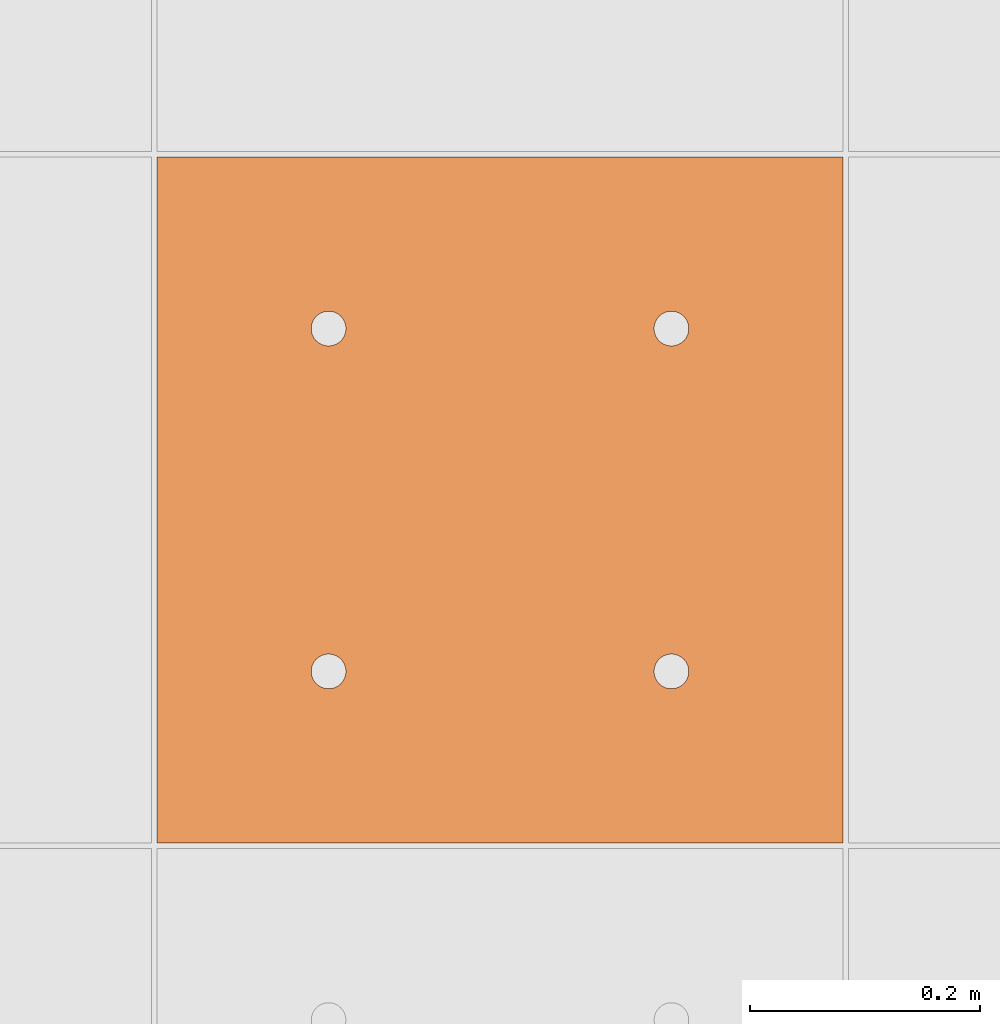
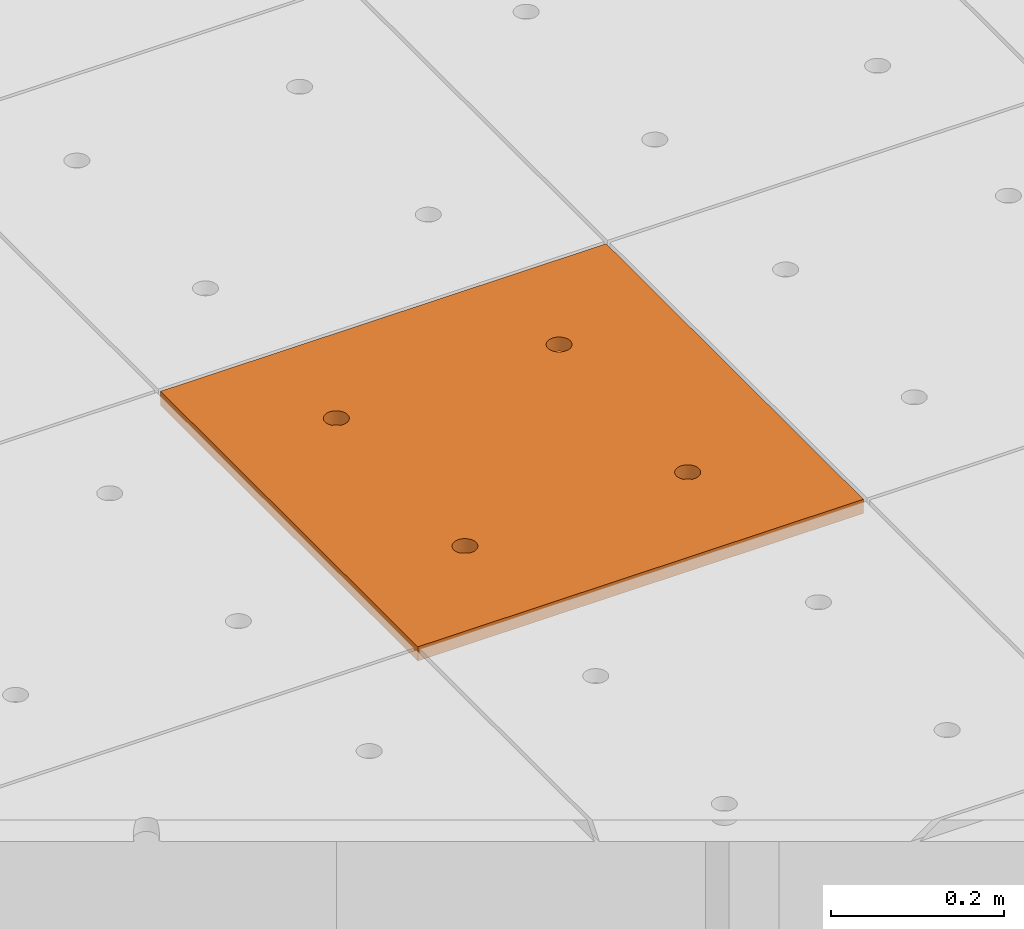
# One storey, part 265 of 338: 1 proxy, 1 element without a shape of its own.
"""IFC2X3 building model written with IfcOpenShell, lengths in millimetres."""

from ifc_helpers import new_model, entity, si_unit, converted_unit, derived_unit, money_unit, direction, frame, origin_with_axes, place, context, subcontext, project, spatial, faceted_brep, source, transform, mapped, material, type_object, type_shapes, element, aggregate, save


model = new_model("IFC2X3")

# Units and contexts
model_context = context("Model", 3, precision=0.01, world=origin_with_axes(), true_north=direction((0.0, 1.0)))
plan_context = context("Plan", 3, precision=0.01, world=origin_with_axes(), true_north=direction((0.0, 1.0)))
body_context = subcontext(model_context, "Body", "Model", "MODEL_VIEW")
ifc_project = project(units=[si_unit("LENGTHUNIT", "METRE", prefix="MILLI"), si_unit("AREAUNIT", "SQUARE_METRE"), si_unit("VOLUMEUNIT", "CUBIC_METRE"), converted_unit("PLANEANGLEUNIT", "DEGREE", entity("IfcPlaneAngleMeasure", 0.0174532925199), si_unit("PLANEANGLEUNIT", "RADIAN"), dimensions=[0, 0, 0, 0, 0, 0, 0]), money_unit("EUR"), converted_unit("TIMEUNIT", "Year", entity("IfcTimeMeasure", 31556926.0), si_unit("TIMEUNIT", "SECOND"), dimensions=[0, 0, 1, 0, 0, 0, 0]), si_unit("MASSUNIT", "GRAM", prefix="KILO"), si_unit("THERMODYNAMICTEMPERATUREUNIT", "DEGREE_CELSIUS"), si_unit("LUMINOUSINTENSITYUNIT", "LUMEN"), si_unit("ENERGYUNIT", "JOULE", prefix="MEGA"), derived_unit("THERMALCONDUCTANCEUNIT", [(si_unit("POWERUNIT", "WATT"), 1), (si_unit("LENGTHUNIT", "METRE"), -1), (si_unit("THERMODYNAMICTEMPERATUREUNIT", "KELVIN"), -1)]), derived_unit("SPECIFICHEATCAPACITYUNIT", [(si_unit("ENERGYUNIT", "JOULE"), 1), (si_unit("MASSUNIT", "GRAM", prefix="KILO"), -1), (si_unit("THERMODYNAMICTEMPERATUREUNIT", "KELVIN"), -1)]), derived_unit("MASSDENSITYUNIT", [(si_unit("MASSUNIT", "GRAM", prefix="KILO"), 1), (si_unit("VOLUMEUNIT", "CUBIC_METRE"), -1)])], contexts=[model_context, plan_context])

# Site, building, storey
site_placement = place(None, origin_with_axes())
site = spatial("IfcSite", under=ifc_project, at=site_placement, Name="Fortuinstraat Woensdrecht", CompositionType="ELEMENT")
building_placement = place(site_placement, origin_with_axes())
building = spatial("IfcBuilding", under=site, at=building_placement, Name="IKC Fortuna", CompositionType="ELEMENT")
storey_placement = place(building_placement, origin_with_axes())
storey = spatial("IfcBuildingStorey", under=building, at=storey_placement, Name="00 begane grond", CompositionType="ELEMENT", Elevation=0.0)

# Covering, proxy
covering_type = type_object("IfcCoveringType", Name="Curtain Wall Type", PredefinedType="CEILING")
covering_placement = place(storey_placement, frame((31656.9226967, 15748.5304598, 3210.0), z_axis=(0.0, 0.0, 1.0), x_axis=(1.0, 0.0, 0.0)))
covering = element("IfcCovering", 1, at=covering_placement, inside=storey, type_object=covering_type, Name="45_Plafondafwerking_P01", PredefinedType="CEILING")
ifc_material = material(Name="Gipsplaat")
building_element_proxy_type = type_object("IfcBuildingElementProxyType", Name="Main Panel 600 x 600 x 20", PredefinedType="NOTDEFINED")
shared_shape = source(origin_with_axes(), body_context, "Body", "Brep", [
    faceted_brep([(2.49999999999, 2.49999999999, -10.0), (300.0, 2.49999999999, -10.0), (300.0, 2.49999999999, 10.0), (2.49999999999, 2.49999999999, 10.0), (2.49999999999, 300.0, -10.0), (2.49999999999, 597.5, -10.0), (300.0, 597.5, -10.0), (597.5, 597.5, -10.0), (597.5, 300.0, -10.0), (597.5, 2.49999999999, -10.0), (166.25, 450.06232995, -10.0), (165.79423259, 452.64711538, -10.0), (164.896546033, 455.11348892, -10.0), (163.58421608, 457.38651108, -10.0), (161.897117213, 459.39711721, -10.0), (159.886511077, 461.08421608, -10.0), (157.613488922, 462.39654603, -10.0), (155.147115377, 463.29423259, -10.0), (152.562329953, 463.75, -10.0), (149.937670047, 463.75, -10.0), (147.352884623, 463.29423259, -10.0), (144.886511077, 462.39654603, -10.0), (142.613488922, 461.08421608, -10.0), (140.602882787, 459.39711721, -10.0), (138.91578392, 457.38651108, -10.0), (137.603453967, 455.11348892, -10.0), (136.705767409, 452.64711538, -10.0), (136.25, 450.06232995, -10.0), (136.25, 448.75, -10.0), (136.25, 447.43767005, -10.0), (136.705767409, 444.85288462, -10.0), (137.603453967, 442.38651108, -10.0), (138.91578392, 440.11348892, -10.0), (140.602882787, 438.10288279, -10.0), (142.613488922, 436.41578392, -10.0), (144.886511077, 435.10345397, -10.0), (147.352884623, 434.20576741, -10.0), (149.937670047, 433.75, -10.0), (152.562329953, 433.75, -10.0), (155.147115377, 434.20576741, -10.0), (157.613488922, 435.10345397, -10.0), (159.886511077, 436.41578392, -10.0), (161.897117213, 438.10288279, -10.0), (163.58421608, 440.11348892, -10.0), (164.896546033, 442.38651108, -10.0), (165.79423259, 444.85288462, -10.0), (166.25, 447.43767005, -10.0), (463.75, 450.06232995, -10.0), (463.29423259, 452.64711538, -10.0), (462.396546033, 455.11348892, -10.0), (461.08421608, 457.38651108, -10.0), (459.397117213, 459.39711721, -10.0), (457.386511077, 461.08421608, -10.0), (455.113488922, 462.39654603, -10.0), (452.647115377, 463.29423259, -10.0), (450.062329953, 463.75, -10.0), (447.437670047, 463.75, -10.0), (444.852884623, 463.29423259, -10.0), (442.386511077, 462.39654603, -10.0), (440.113488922, 461.08421608, -10.0), (438.102882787, 459.39711721, -10.0), (436.41578392, 457.38651108, -10.0), (435.103453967, 455.11348892, -10.0), (434.205767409, 452.64711538, -10.0), (433.75, 450.06232995, -10.0), (433.75, 448.75, -10.0), (433.75, 447.43767005, -10.0), (434.205767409, 444.85288462, -10.0), (435.103453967, 442.38651108, -10.0), (436.41578392, 440.11348892, -10.0), (438.102882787, 438.10288279, -10.0), (440.113488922, 436.41578392, -10.0), (442.386511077, 435.10345397, -10.0), (444.852884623, 434.20576741, -10.0), (447.437670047, 433.75, -10.0), (450.062329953, 433.75, -10.0), (452.647115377, 434.20576741, -10.0), (455.113488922, 435.10345397, -10.0), (457.386511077, 436.41578392, -10.0), (459.397117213, 438.10288279, -10.0), (461.08421608, 440.11348892, -10.0), (462.396546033, 442.38651108, -10.0), (463.29423259, 444.85288462, -10.0), (463.75, 447.43767005, -10.0), (463.75, 152.56232995, -10.0), (463.29423259, 155.14711538, -10.0), (462.396546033, 157.61348892, -10.0), (461.08421608, 159.88651108, -10.0), (459.397117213, 161.89711721, -10.0), (457.386511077, 163.58421608, -10.0), (455.113488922, 164.89654603, -10.0), (452.647115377, 165.79423259, -10.0), (450.062329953, 166.25, -10.0), (447.437670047, 166.25, -10.0), (444.852884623, 165.79423259, -10.0), (442.386511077, 164.89654603, -10.0), (440.113488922, 163.58421608, -10.0), (438.102882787, 161.89711721, -10.0), (436.41578392, 159.88651108, -10.0), (435.103453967, 157.61348892, -10.0), (434.205767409, 155.14711538, -10.0), (433.75, 152.56232995, -10.0), (433.75, 151.25, -10.0), (433.75, 149.93767005, -10.0), (434.205767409, 147.35288462, -10.0), (435.103453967, 144.88651108, -10.0), (436.41578392, 142.61348892, -10.0), (438.102882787, 140.60288279, -10.0), (440.113488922, 138.91578392, -10.0), (442.386511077, 137.60345397, -10.0), (444.852884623, 136.70576741, -10.0), (447.437670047, 136.25, -10.0), (450.062329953, 136.25, -10.0), (452.647115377, 136.70576741, -10.0), (455.113488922, 137.60345397, -10.0), (457.386511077, 138.91578392, -10.0), (459.397117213, 140.60288279, -10.0), (461.08421608, 142.61348892, -10.0), (462.396546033, 144.88651108, -10.0), (463.29423259, 147.35288462, -10.0), (463.75, 149.93767005, -10.0), (166.25, 152.56232995, -10.0), (165.79423259, 155.14711538, -10.0), (164.896546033, 157.61348892, -10.0), (163.58421608, 159.88651108, -10.0), (161.897117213, 161.89711721, -10.0), (159.886511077, 163.58421608, -10.0), (157.613488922, 164.89654603, -10.0), (155.147115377, 165.79423259, -10.0), (152.562329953, 166.25, -10.0), (149.937670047, 166.25, -10.0), (147.352884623, 165.79423259, -10.0), (144.886511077, 164.89654603, -10.0), (142.613488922, 163.58421608, -10.0), (140.602882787, 161.89711721, -10.0), (138.91578392, 159.88651108, -10.0), (137.603453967, 157.61348892, -10.0), (136.705767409, 155.14711538, -10.0), (136.25, 152.56232995, -10.0), (136.25, 151.25, -10.0), (136.25, 149.93767005, -10.0), (136.705767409, 147.35288462, -10.0), (137.603453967, 144.88651108, -10.0), (138.91578392, 142.61348892, -10.0), (140.602882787, 140.60288279, -10.0), (142.613488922, 138.91578392, -10.0), (144.886511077, 137.60345397, -10.0), (147.352884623, 136.70576741, -10.0), (149.937670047, 136.25, -10.0), (152.562329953, 136.25, -10.0), (155.147115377, 136.70576741, -10.0), (157.613488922, 137.60345397, -10.0), (159.886511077, 138.91578392, -10.0), (161.897117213, 140.60288279, -10.0), (163.58421608, 142.61348892, -10.0), (164.896546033, 144.88651108, -10.0), (165.79423259, 147.35288462, -10.0), (166.25, 149.93767005, -10.0), (597.5, 2.49999999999, 10.0), (597.5, 300.0, 10.0), (597.5, 597.5, 10.0), (300.0, 597.5, 10.0), (2.49999999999, 597.5, 10.0), (2.49999999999, 300.0, 10.0), (166.25, 450.06232995, 10.0), (166.25, 447.43767005, 10.0), (165.79423259, 444.85288462, 10.0), (164.896546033, 442.38651108, 10.0), (163.58421608, 440.11348892, 10.0), (161.897117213, 438.10288279, 10.0), (159.886511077, 436.41578392, 10.0), (157.613488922, 435.10345397, 10.0), (155.147115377, 434.20576741, 10.0), (152.562329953, 433.75, 10.0), (149.937670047, 433.75, 10.0), (147.352884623, 434.20576741, 10.0), (144.886511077, 435.10345397, 10.0), (142.613488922, 436.41578392, 10.0), (140.602882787, 438.10288279, 10.0), (138.91578392, 440.11348892, 10.0), (137.603453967, 442.38651108, 10.0), (136.705767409, 444.85288462, 10.0), (136.25, 447.43767005, 10.0), (136.25, 448.75, 10.0), (136.25, 450.06232995, 10.0), (136.705767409, 452.64711538, 10.0), (137.603453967, 455.11348892, 10.0), (138.91578392, 457.38651108, 10.0), (140.602882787, 459.39711721, 10.0), (142.613488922, 461.08421608, 10.0), (144.886511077, 462.39654603, 10.0), (147.352884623, 463.29423259, 10.0), (149.937670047, 463.75, 10.0), (152.562329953, 463.75, 10.0), (155.147115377, 463.29423259, 10.0), (157.613488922, 462.39654603, 10.0), (159.886511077, 461.08421608, 10.0), (161.897117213, 459.39711721, 10.0), (163.58421608, 457.38651108, 10.0), (164.896546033, 455.11348892, 10.0), (165.79423259, 452.64711538, 10.0), (463.75, 450.06232995, 10.0), (463.75, 447.43767005, 10.0), (463.29423259, 444.85288462, 10.0), (462.396546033, 442.38651108, 10.0), (461.08421608, 440.11348892, 10.0), (459.397117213, 438.10288279, 10.0), (457.386511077, 436.41578392, 10.0), (455.113488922, 435.10345397, 10.0), (452.647115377, 434.20576741, 10.0), (450.062329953, 433.75, 10.0), (447.437670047, 433.75, 10.0), (444.852884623, 434.20576741, 10.0), (442.386511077, 435.10345397, 10.0), (440.113488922, 436.41578392, 10.0), (438.102882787, 438.10288279, 10.0), (436.41578392, 440.11348892, 10.0), (435.103453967, 442.38651108, 10.0), (434.205767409, 444.85288462, 10.0), (433.75, 447.43767005, 10.0), (433.75, 448.75, 10.0), (433.75, 450.06232995, 10.0), (434.205767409, 452.64711538, 10.0), (435.103453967, 455.11348892, 10.0), (436.41578392, 457.38651108, 10.0), (438.102882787, 459.39711721, 10.0), (440.113488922, 461.08421608, 10.0), (442.386511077, 462.39654603, 10.0), (444.852884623, 463.29423259, 10.0), (447.437670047, 463.75, 10.0), (450.062329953, 463.75, 10.0), (452.647115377, 463.29423259, 10.0), (455.113488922, 462.39654603, 10.0), (457.386511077, 461.08421608, 10.0), (459.397117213, 459.39711721, 10.0), (461.08421608, 457.38651108, 10.0), (462.396546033, 455.11348892, 10.0), (463.29423259, 452.64711538, 10.0), (463.75, 152.56232995, 10.0), (463.75, 149.93767005, 10.0), (463.29423259, 147.35288462, 10.0), (462.396546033, 144.88651108, 10.0), (461.08421608, 142.61348892, 10.0), (459.397117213, 140.60288279, 10.0), (457.386511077, 138.91578392, 10.0), (455.113488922, 137.60345397, 10.0), (452.647115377, 136.70576741, 10.0), (450.062329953, 136.25, 10.0), (447.437670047, 136.25, 10.0), (444.852884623, 136.70576741, 10.0), (442.386511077, 137.60345397, 10.0), (440.113488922, 138.91578392, 10.0), (438.102882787, 140.60288279, 10.0), (436.41578392, 142.61348892, 10.0), (435.103453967, 144.88651108, 10.0), (434.205767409, 147.35288462, 10.0), (433.75, 149.93767005, 10.0), (433.75, 151.25, 10.0), (433.75, 152.56232995, 10.0), (434.205767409, 155.14711538, 10.0), (435.103453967, 157.61348892, 10.0), (436.41578392, 159.88651108, 10.0), (438.102882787, 161.89711721, 10.0), (440.113488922, 163.58421608, 10.0), (442.386511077, 164.89654603, 10.0), (444.852884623, 165.79423259, 10.0), (447.437670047, 166.25, 10.0), (450.062329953, 166.25, 10.0), (452.647115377, 165.79423259, 10.0), (455.113488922, 164.89654603, 10.0), (457.386511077, 163.58421608, 10.0), (459.397117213, 161.89711721, 10.0), (461.08421608, 159.88651108, 10.0), (462.396546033, 157.61348892, 10.0), (463.29423259, 155.14711538, 10.0), (166.25, 152.56232995, 10.0), (166.25, 149.93767005, 10.0), (165.79423259, 147.35288462, 10.0), (164.896546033, 144.88651108, 10.0), (163.58421608, 142.61348892, 10.0), (161.897117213, 140.60288279, 10.0), (159.886511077, 138.91578392, 10.0), (157.613488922, 137.60345397, 10.0), (155.147115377, 136.70576741, 10.0), (152.562329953, 136.25, 10.0), (149.937670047, 136.25, 10.0), (147.352884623, 136.70576741, 10.0), (144.886511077, 137.60345397, 10.0), (142.613488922, 138.91578392, 10.0), (140.602882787, 140.60288279, 10.0), (138.91578392, 142.61348892, 10.0), (137.603453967, 144.88651108, 10.0), (136.705767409, 147.35288462, 10.0), (136.25, 149.93767005, 10.0), (136.25, 151.25, 10.0), (136.25, 152.56232995, 10.0), (136.705767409, 155.14711538, 10.0), (137.603453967, 157.61348892, 10.0), (138.91578392, 159.88651108, 10.0), (140.602882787, 161.89711721, 10.0), (142.613488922, 163.58421608, 10.0), (144.886511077, 164.89654603, 10.0), (147.352884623, 165.79423259, 10.0), (149.937670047, 166.25, 10.0), (152.562329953, 166.25, 10.0), (155.147115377, 165.79423259, 10.0), (157.613488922, 164.89654603, 10.0), (159.886511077, 163.58421608, 10.0), (161.897117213, 161.89711721, 10.0), (163.58421608, 159.88651108, 10.0), (164.896546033, 157.61348892, 10.0), (165.79423259, 155.14711538, 10.0)], [[[0, 1, 2, 3]], [[0, 4, 5, 6, 7, 8, 9, 1], [10, 11, 12, 13, 14, 15, 16, 17, 18, 19, 20, 21, 22, 23, 24, 25, 26, 27, 28, 29, 30, 31, 32, 33, 34, 35, 36, 37, 38, 39, 40, 41, 42, 43, 44, 45, 46], [47, 48, 49, 50, 51, 52, 53, 54, 55, 56, 57, 58, 59, 60, 61, 62, 63, 64, 65, 66, 67, 68, 69, 70, 71, 72, 73, 74, 75, 76, 77, 78, 79, 80, 81, 82, 83], [84, 85, 86, 87, 88, 89, 90, 91, 92, 93, 94, 95, 96, 97, 98, 99, 100, 101, 102, 103, 104, 105, 106, 107, 108, 109, 110, 111, 112, 113, 114, 115, 116, 117, 118, 119, 120], [121, 122, 123, 124, 125, 126, 127, 128, 129, 130, 131, 132, 133, 134, 135, 136, 137, 138, 139, 140, 141, 142, 143, 144, 145, 146, 147, 148, 149, 150, 151, 152, 153, 154, 155, 156, 157]], [[1, 9, 158, 2]], [[3, 2, 158, 159, 160, 161, 162, 163], [164, 165, 166, 167, 168, 169, 170, 171, 172, 173, 174, 175, 176, 177, 178, 179, 180, 181, 182, 183, 184, 185, 186, 187, 188, 189, 190, 191, 192, 193, 194, 195, 196, 197, 198, 199, 200], [201, 202, 203, 204, 205, 206, 207, 208, 209, 210, 211, 212, 213, 214, 215, 216, 217, 218, 219, 220, 221, 222, 223, 224, 225, 226, 227, 228, 229, 230, 231, 232, 233, 234, 235, 236, 237], [238, 239, 240, 241, 242, 243, 244, 245, 246, 247, 248, 249, 250, 251, 252, 253, 254, 255, 256, 257, 258, 259, 260, 261, 262, 263, 264, 265, 266, 267, 268, 269, 270, 271, 272, 273, 274], [275, 276, 277, 278, 279, 280, 281, 282, 283, 284, 285, 286, 287, 288, 289, 290, 291, 292, 293, 294, 295, 296, 297, 298, 299, 300, 301, 302, 303, 304, 305, 306, 307, 308, 309, 310, 311]], [[4, 0, 3, 163]], [[5, 4, 163, 162]], [[6, 5, 162, 161]], [[7, 6, 161, 160]], [[8, 7, 160, 159]], [[9, 8, 159, 158]], [[11, 10, 164, 200]], [[12, 11, 200, 199]], [[13, 12, 199, 198]], [[14, 13, 198, 197]], [[15, 14, 197, 196]], [[16, 15, 196, 195]], [[17, 16, 195, 194]], [[18, 17, 194, 193]], [[19, 18, 193, 192]], [[20, 19, 192, 191]], [[21, 20, 191, 190]], [[22, 21, 190, 189]], [[23, 22, 189, 188]], [[24, 23, 188, 187]], [[25, 24, 187, 186]], [[26, 25, 186, 185]], [[27, 26, 185, 184]], [[28, 27, 184, 183]], [[29, 28, 183, 182]], [[30, 29, 182, 181]], [[31, 30, 181, 180]], [[32, 31, 180, 179]], [[33, 32, 179, 178]], [[34, 33, 178, 177]], [[35, 34, 177, 176]], [[36, 35, 176, 175]], [[37, 36, 175, 174]], [[38, 37, 174, 173]], [[39, 38, 173, 172]], [[40, 39, 172, 171]], [[41, 40, 171, 170]], [[42, 41, 170, 169]], [[43, 42, 169, 168]], [[44, 43, 168, 167]], [[45, 44, 167, 166]], [[46, 45, 166, 165]], [[10, 46, 165, 164]], [[48, 47, 201, 237]], [[49, 48, 237, 236]], [[50, 49, 236, 235]], [[51, 50, 235, 234]], [[52, 51, 234, 233]], [[53, 52, 233, 232]], [[54, 53, 232, 231]], [[55, 54, 231, 230]], [[56, 55, 230, 229]], [[57, 56, 229, 228]], [[58, 57, 228, 227]], [[59, 58, 227, 226]], [[60, 59, 226, 225]], [[61, 60, 225, 224]], [[62, 61, 224, 223]], [[63, 62, 223, 222]], [[64, 63, 222, 221]], [[65, 64, 221, 220]], [[66, 65, 220, 219]], [[67, 66, 219, 218]], [[68, 67, 218, 217]], [[69, 68, 217, 216]], [[70, 69, 216, 215]], [[71, 70, 215, 214]], [[72, 71, 214, 213]], [[73, 72, 213, 212]], [[74, 73, 212, 211]], [[75, 74, 211, 210]], [[76, 75, 210, 209]], [[77, 76, 209, 208]], [[78, 77, 208, 207]], [[79, 78, 207, 206]], [[80, 79, 206, 205]], [[81, 80, 205, 204]], [[82, 81, 204, 203]], [[83, 82, 203, 202]], [[47, 83, 202, 201]], [[85, 84, 238, 274]], [[86, 85, 274, 273]], [[87, 86, 273, 272]], [[88, 87, 272, 271]], [[89, 88, 271, 270]], [[90, 89, 270, 269]], [[91, 90, 269, 268]], [[92, 91, 268, 267]], [[93, 92, 267, 266]], [[94, 93, 266, 265]], [[95, 94, 265, 264]], [[96, 95, 264, 263]], [[97, 96, 263, 262]], [[98, 97, 262, 261]], [[99, 98, 261, 260]], [[100, 99, 260, 259]], [[101, 100, 259, 258]], [[102, 101, 258, 257]], [[103, 102, 257, 256]], [[104, 103, 256, 255]], [[105, 104, 255, 254]], [[106, 105, 254, 253]], [[107, 106, 253, 252]], [[108, 107, 252, 251]], [[109, 108, 251, 250]], [[110, 109, 250, 249]], [[111, 110, 249, 248]], [[112, 111, 248, 247]], [[113, 112, 247, 246]], [[114, 113, 246, 245]], [[115, 114, 245, 244]], [[116, 115, 244, 243]], [[117, 116, 243, 242]], [[118, 117, 242, 241]], [[119, 118, 241, 240]], [[120, 119, 240, 239]], [[84, 120, 239, 238]], [[122, 121, 275, 311]], [[123, 122, 311, 310]], [[124, 123, 310, 309]], [[125, 124, 309, 308]], [[126, 125, 308, 307]], [[127, 126, 307, 306]], [[128, 127, 306, 305]], [[129, 128, 305, 304]], [[130, 129, 304, 303]], [[131, 130, 303, 302]], [[132, 131, 302, 301]], [[133, 132, 301, 300]], [[134, 133, 300, 299]], [[135, 134, 299, 298]], [[136, 135, 298, 297]], [[137, 136, 297, 296]], [[138, 137, 296, 295]], [[139, 138, 295, 294]], [[140, 139, 294, 293]], [[141, 140, 293, 292]], [[142, 141, 292, 291]], [[143, 142, 291, 290]], [[144, 143, 290, 289]], [[145, 144, 289, 288]], [[146, 145, 288, 287]], [[147, 146, 287, 286]], [[148, 147, 286, 285]], [[149, 148, 285, 284]], [[150, 149, 284, 283]], [[151, 150, 283, 282]], [[152, 151, 282, 281]], [[153, 152, 281, 280]], [[154, 153, 280, 279]], [[155, 154, 279, 278]], [[156, 155, 278, 277]], [[157, 156, 277, 276]], [[121, 157, 276, 275]]]),
])
type_shapes(building_element_proxy_type, [shared_shape])
proxy_placement = place(covering_placement, frame((0.0, 600.0, 0.0), z_axis=(0.0, 0.0, 1.0), x_axis=(1.0, 0.0, 0.0)))
proxy = element("IfcBuildingElementProxy", 2, at=proxy_placement, type_object=building_element_proxy_type, material=ifc_material, Name="__600x634 Rockfon Krios", context=body_context, shape_type="MappedRepresentation", body=[
    mapped(shared_shape, transform((300.0, 300.0, 0.0), x_axis=(-1.0, 0.0, 0.0), y_axis=(0.0, -1.0, 0.0), z_axis=(0.0, 0.0, 1.0))),
])
aggregate(covering, [proxy])

save(model, "model.ifc")
